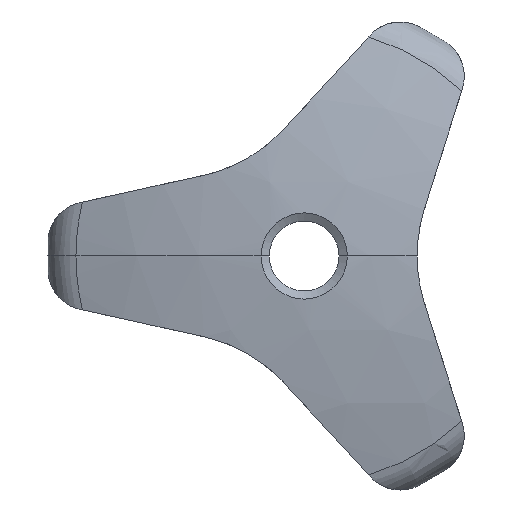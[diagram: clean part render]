
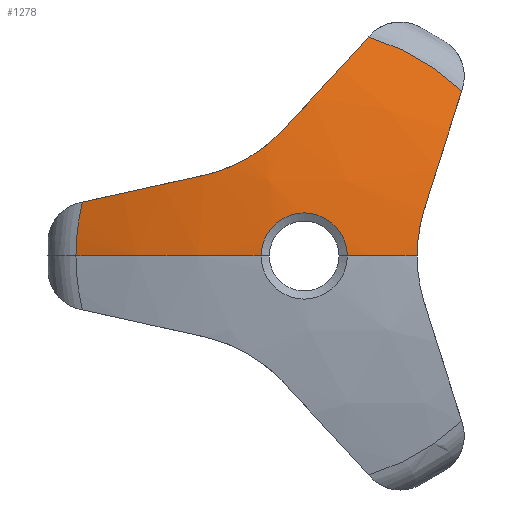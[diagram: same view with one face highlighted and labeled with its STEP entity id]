
A CAD part, left-side view. The second image highlights one B-rep face of the part: STEP entity #1278.
In plain terms, the highlighted spherical face has radius 72 mm.
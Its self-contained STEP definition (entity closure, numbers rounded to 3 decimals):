
#42 = DIRECTION ( 'NONE',  ( 0., -0.216, -0.976 ) ) ;
#74 = EDGE_CURVE ( 'NONE', #1559, #239, #569, .T. ) ;
#81 = CARTESIAN_POINT ( 'NONE',  ( -28.901, 1.941, 12.383 ) ) ;
#86 = CARTESIAN_POINT ( 'NONE',  ( 42., 7.223, 6.619 ) ) ;
#93 = AXIS2_PLACEMENT_3D ( 'NONE', #1132, #42, #1520 ) ;
#96 = CARTESIAN_POINT ( 'NONE',  ( -28.985, 9.004, 8.038 ) ) ;
#103 = CARTESIAN_POINT ( 'NONE',  ( -29.133, 4.2, 10.346 ) ) ;
#139 = VERTEX_POINT ( 'NONE', #1122 ) ;
#155 = ORIENTED_EDGE ( 'NONE', *, *, #1250, .F. ) ;
#166 = VERTEX_POINT ( 'NONE', #506 ) ;
#187 = ORIENTED_EDGE ( 'NONE', *, *, #402, .T. ) ;
#188 = CARTESIAN_POINT ( 'NONE',  ( -29.149, -11.015, 0.77 ) ) ;
#194 = CARTESIAN_POINT ( 'NONE',  ( -29.877, -4.2, 0. ) ) ;
#209 = CARTESIAN_POINT ( 'NONE',  ( 42., 0., 0. ) ) ;
#214 = CARTESIAN_POINT ( 'NONE',  ( -28.901, -11.694, 4.511 ) ) ;
#221 = EDGE_CURVE ( 'NONE', #394, #239, #855, .T. ) ;
#231 = DIRECTION ( 'NONE',  ( 0., 0., 1. ) ) ;
#239 = VERTEX_POINT ( 'NONE', #914 ) ;
#242 = CARTESIAN_POINT ( 'NONE',  ( -29.155, 4.829, 9.914 ) ) ;
#243 = ORIENTED_EDGE ( 'NONE', *, *, #1061, .T. ) ;
#261 = DIRECTION ( 'NONE',  ( -1., 0., 0. ) ) ;
#272 = VERTEX_POINT ( 'NONE', #194 ) ;
#326 = ORIENTED_EDGE ( 'NONE', *, *, #74, .F. ) ;
#336 = CARTESIAN_POINT ( 'NONE',  ( -29.128, 6.861, 8.825 ) ) ;
#354 = CARTESIAN_POINT ( 'NONE',  ( -28.985, -11.464, 3.78 ) ) ;
#387 = DIRECTION ( 'NONE',  ( 0., 1., 0. ) ) ;
#391 = CARTESIAN_POINT ( 'NONE',  ( 42., 0., 0. ) ) ;
#394 = VERTEX_POINT ( 'NONE', #214 ) ;
#398 = ORIENTED_EDGE ( 'NONE', *, *, #792, .F. ) ;
#402 = EDGE_CURVE ( 'NONE', #272, #1120, #1264, .T. ) ;
#433 = CIRCLE ( 'NONE', #832, 4.2 ) ;
#455 = DIRECTION ( 'NONE',  ( 0., -0.737, -0.676 ) ) ;
#456 = CARTESIAN_POINT ( 'NONE',  ( -29.155, 5.829, 9.336 ) ) ;
#472 = AXIS2_PLACEMENT_3D ( 'NONE', #1223, #231, #1574 ) ;
#506 = CARTESIAN_POINT ( 'NONE',  ( -26.481, 22.235, 0. ) ) ;
#555 = ORIENTED_EDGE ( 'NONE', *, *, #671, .T. ) ;
#564 = B_SPLINE_CURVE_WITH_KNOTS ( 'NONE', 3,
 ( #81, #1048, #1539, #103, #242, #456, #1088, #336, #717, #847, #96, #1199 ),
 .UNSPECIFIED., .F., .F.,
 ( 4, 2, 2, 2, 2, 4 ),
 ( 0., 0.002, 0.005, 0.006, 0.007, 0.009 ),
 .UNSPECIFIED. ) ;
#569 = CIRCLE ( 'NONE', #618, 22.235 ) ;
#574 = CARTESIAN_POINT ( 'NONE',  ( -29.155, -11., 0. ) ) ;
#606 = CARTESIAN_POINT ( 'NONE',  ( -26.481, 0., 0. ) ) ;
#618 = AXIS2_PLACEMENT_3D ( 'NONE', #770, #657, #1134 ) ;
#633 = CIRCLE ( 'NONE', #1286, 71.33 ) ;
#651 = DIRECTION ( 'NONE',  ( 0., 1., 0. ) ) ;
#657 = DIRECTION ( 'NONE',  ( 1., 0., 0. ) ) ;
#661 = DIRECTION ( 'NONE',  ( 0., 0., 1. ) ) ;
#671 = EDGE_CURVE ( 'NONE', #757, #1451, #564, .T. ) ;
#717 = CARTESIAN_POINT ( 'NONE',  ( -29.112, 7.211, 8.674 ) ) ;
#740 = SPHERICAL_SURFACE ( 'NONE', #472, 72. ) ;
#757 = VERTEX_POINT ( 'NONE', #896 ) ;
#770 = CARTESIAN_POINT ( 'NONE',  ( -26.481, 0., 0. ) ) ;
#792 = EDGE_CURVE ( 'NONE', #139, #166, #1140, .T. ) ;
#825 = CARTESIAN_POINT ( 'NONE',  ( -28.901, 9.753, 7.872 ) ) ;
#832 = AXIS2_PLACEMENT_3D ( 'NONE', #1210, #886, #651 ) ;
#841 = EDGE_LOOP ( 'NONE', ( #1434, #187, #1188, #1093, #326, #243, #555, #1220, #155, #398 ) ) ;
#847 = CARTESIAN_POINT ( 'NONE',  ( -29.048, 8.275, 8.26 ) ) ;
#855 = CIRCLE ( 'NONE', #1007, 71.33 ) ;
#877 = DIRECTION ( 'NONE',  ( 0., 0., -1. ) ) ;
#878 = CARTESIAN_POINT ( 'NONE',  ( -26.481, -6.262, 21.335 ) ) ;
#886 = DIRECTION ( 'NONE',  ( -1., 0., 0. ) ) ;
#896 = CARTESIAN_POINT ( 'NONE',  ( -28.901, 1.941, 12.383 ) ) ;
#914 = CARTESIAN_POINT ( 'NONE',  ( -26.481, -15.346, 16.091 ) ) ;
#1007 = AXIS2_PLACEMENT_3D ( 'NONE', #1394, #1385, #1025 ) ;
#1013 = VERTEX_POINT ( 'NONE', #1548 ) ;
#1025 = DIRECTION ( 'NONE',  ( 0., 0.301, -0.954 ) ) ;
#1042 = CARTESIAN_POINT ( 'NONE',  ( -29.155, -11., 0. ) ) ;
#1048 = CARTESIAN_POINT ( 'NONE',  ( -28.985, 2.459, 11.817 ) ) ;
#1061 = EDGE_CURVE ( 'NONE', #1559, #757, #633, .T. ) ;
#1070 = CARTESIAN_POINT ( 'NONE',  ( -28.901, -11.694, 4.511 ) ) ;
#1088 = CARTESIAN_POINT ( 'NONE',  ( -29.149, 6.171, 9.156 ) ) ;
#1093 = ORIENTED_EDGE ( 'NONE', *, *, #221, .T. ) ;
#1106 = AXIS2_PLACEMENT_3D ( 'NONE', #209, #661, #1573 ) ;
#1120 = VERTEX_POINT ( 'NONE', #1042 ) ;
#1122 = CARTESIAN_POINT ( 'NONE',  ( -29.877, 4.2, 0. ) ) ;
#1132 = CARTESIAN_POINT ( 'NONE',  ( 42., 2.12, 9.564 ) ) ;
#1134 = DIRECTION ( 'NONE',  ( 0., 1., 0. ) ) ;
#1140 = CIRCLE ( 'NONE', #1543, 72. ) ;
#1183 = CIRCLE ( 'NONE', #93, 71.33 ) ;
#1185 = CIRCLE ( 'NONE', #1474, 22.235 ) ;
#1188 = ORIENTED_EDGE ( 'NONE', *, *, #1489, .T. ) ;
#1193 = CARTESIAN_POINT ( 'NONE',  ( -29.048, -11.291, 3.038 ) ) ;
#1197 = DIRECTION ( 'NONE',  ( 1., 0., 0. ) ) ;
#1199 = CARTESIAN_POINT ( 'NONE',  ( -28.901, 9.753, 7.872 ) ) ;
#1210 = CARTESIAN_POINT ( 'NONE',  ( -29.877, 0., 0. ) ) ;
#1220 = ORIENTED_EDGE ( 'NONE', *, *, #1369, .T. ) ;
#1223 = CARTESIAN_POINT ( 'NONE',  ( 42., 0., 0. ) ) ;
#1250 = EDGE_CURVE ( 'NONE', #166, #1013, #1185, .T. ) ;
#1264 = CIRCLE ( 'NONE', #1106, 72. ) ;
#1273 = CARTESIAN_POINT ( 'NONE',  ( -29.112, -11.117, 1.91 ) ) ;
#1278 = ADVANCED_FACE ( 'NONE', ( #1342 ), #740, .T. ) ;
#1286 = AXIS2_PLACEMENT_3D ( 'NONE', #86, #455, #1530 ) ;
#1342 = FACE_OUTER_BOUND ( 'NONE', #841, .T. ) ;
#1369 = EDGE_CURVE ( 'NONE', #1451, #1013, #1183, .T. ) ;
#1385 = DIRECTION ( 'NONE',  ( 0., 0.954, 0.301 ) ) ;
#1394 = CARTESIAN_POINT ( 'NONE',  ( 42., -9.343, -2.946 ) ) ;
#1434 = ORIENTED_EDGE ( 'NONE', *, *, #1557, .F. ) ;
#1440 = CARTESIAN_POINT ( 'NONE',  ( -29.155, -11., 0.385 ) ) ;
#1447 = CARTESIAN_POINT ( 'NONE',  ( -29.128, -11.074, 1.532 ) ) ;
#1451 = VERTEX_POINT ( 'NONE', #825 ) ;
#1454 = B_SPLINE_CURVE_WITH_KNOTS ( 'NONE', 3,
 ( #574, #1440, #188, #1447, #1273, #1193, #354, #1070 ),
 .UNSPECIFIED., .F., .F.,
 ( 4, 2, 2, 4 ),
 ( 0.005, 0.006, 0.007, 0.009 ),
 .UNSPECIFIED. ) ;
#1474 = AXIS2_PLACEMENT_3D ( 'NONE', #606, #1197, #387 ) ;
#1489 = EDGE_CURVE ( 'NONE', #1120, #394, #1454, .T. ) ;
#1520 = DIRECTION ( 'NONE',  ( 0., -0.976, 0.216 ) ) ;
#1530 = DIRECTION ( 'NONE',  ( 0., -0.676, 0.737 ) ) ;
#1539 = CARTESIAN_POINT ( 'NONE',  ( -29.048, 3.015, 11.297 ) ) ;
#1543 = AXIS2_PLACEMENT_3D ( 'NONE', #391, #877, #261 ) ;
#1548 = CARTESIAN_POINT ( 'NONE',  ( -26.481, 21.608, 5.244 ) ) ;
#1557 = EDGE_CURVE ( 'NONE', #272, #139, #433, .T. ) ;
#1559 = VERTEX_POINT ( 'NONE', #878 ) ;
#1573 = DIRECTION ( 'NONE',  ( 0., -1., 0. ) ) ;
#1574 = DIRECTION ( 'NONE',  ( 0., 1., 0. ) ) ;
